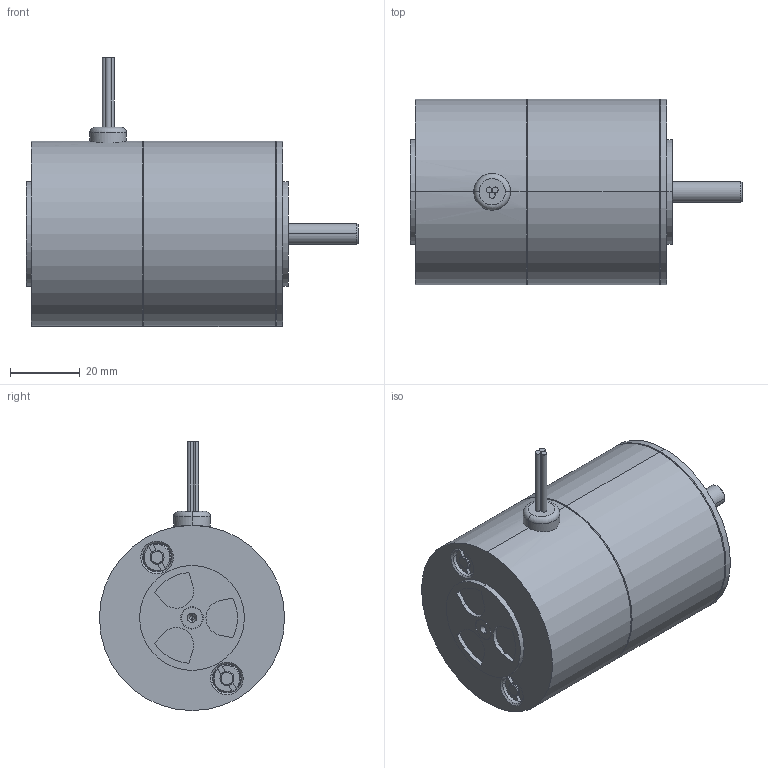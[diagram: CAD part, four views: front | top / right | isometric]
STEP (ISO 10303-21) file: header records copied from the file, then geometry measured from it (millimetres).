
FILE_DESCRIPTION (( 'STEP AP214' ), '1' );
FILE_NAME ('G525.STEP', '2009-12-08T10:01:25', ( 'hirschmeier' ), ( '' ), 'SwSTEP 2.0', 'SolidWorks 2008', '' );
FILE_SCHEMA (( 'AUTOMOTIVE_DESIGN' ));
Length unit declared in the file: millimetre
Products named in the file (1): G525
Bounding box: 95 x 53 x 77 mm (x, y, z)
Volume: 161088 mm3; surface area: 18788.8 mm2
Topology: 1 solids, 1 shells, 156 faces, 362 edges, 219 vertices
Faces by surface type: cylinder 60, cone 52, plane 42, torus 2
Entity records: 5752 total; most frequent: DIRECTION 835, CARTESIAN_POINT 828, ORIENTED_EDGE 700, EDGE_CURVE 350, AXIS2_PLACEMENT_3D 338, VERTEX_POINT 219, CIRCLE 181, EDGE_LOOP 179
